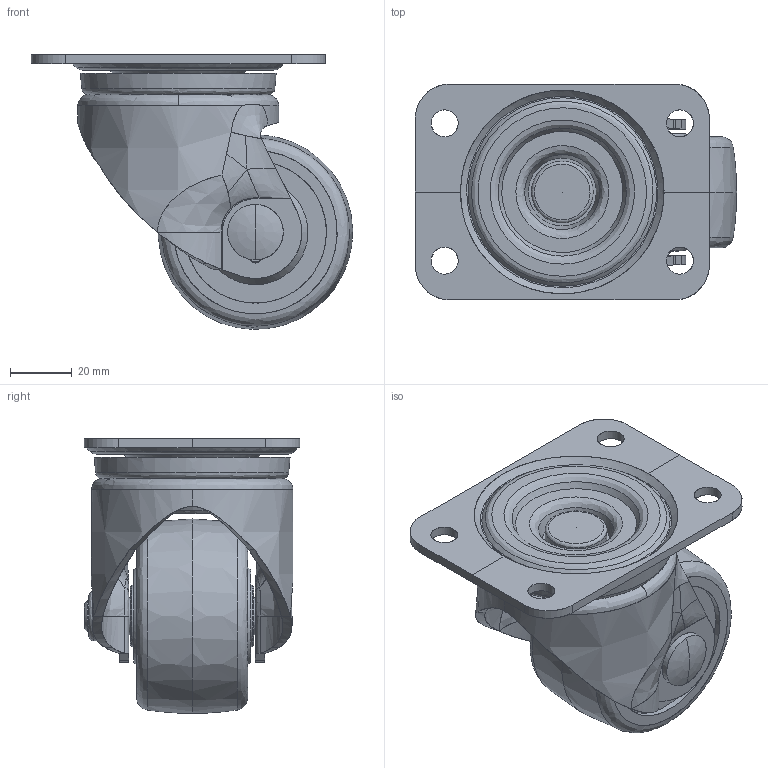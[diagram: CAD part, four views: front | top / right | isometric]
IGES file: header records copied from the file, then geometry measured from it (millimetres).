
Start section: JAMA-IS VERSION  1.0
Global section: file name: C:\CAM-TOOL data\ToolsFile\INOAC車輪\9月\FP63WJ-ALL.igs; native system: CAM-TOOL; preprocessor: C3out Version 11.1.1.50212 (2015/02/12); author: NONE; organization: NONE; date: 231014.220148; units: millimetre
Bounding box: 104.09 x 69.9 x 88.98 mm (x, y, z)
Surface area: 72724.6 mm2 (no closed solid volume)
Topology: 0 solids, 0 shells, 262 faces, 3134 edges, 3853 vertices
Faces by surface type: bspline 262
